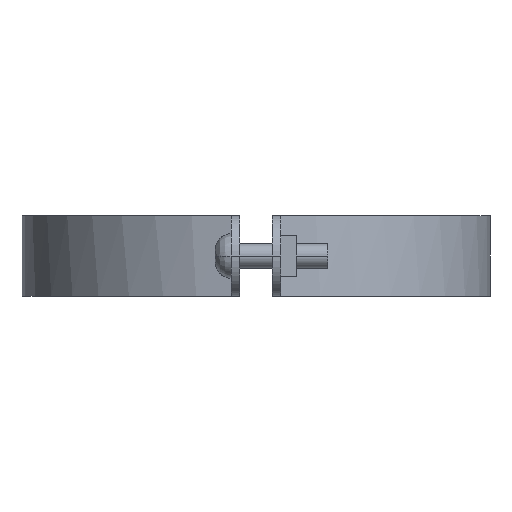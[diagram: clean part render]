
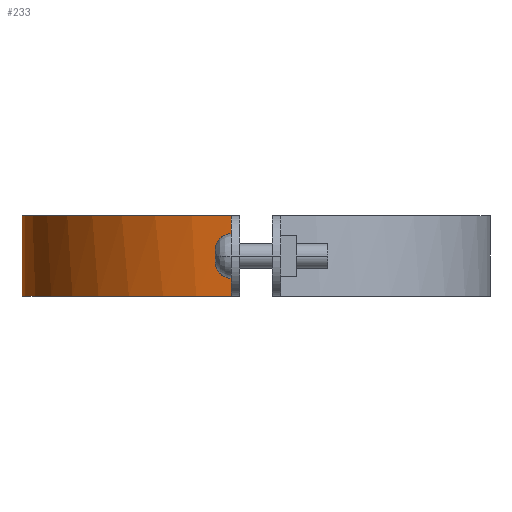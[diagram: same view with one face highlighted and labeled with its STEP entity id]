
A CAD part, left-side view. The second image highlights one B-rep face of the part: STEP entity #233.
In plain terms, the highlighted free-form (B-spline) face has degree [3, 1] with [4, 2] control points.
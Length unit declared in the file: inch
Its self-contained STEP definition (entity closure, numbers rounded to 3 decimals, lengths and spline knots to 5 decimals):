
#233=ADVANCED_FACE('',(#475),#476,.T.);
#475=FACE_OUTER_BOUND('',#995,.T.);
#476=B_SPLINE_SURFACE_WITH_KNOTS('',3,1,((#996,#997),(#998,#999),(#1000,#1001),(#1002,#1003)),.UNSPECIFIED.,.F.,.F.,.F.,(4,4),(2,2),(0.0,1.0),(0.0,1.25),.UNSPECIFIED.);
#995=EDGE_LOOP('',(#1657,#1658,#1659,#1660));
#996=CARTESIAN_POINT('',(4.497,6.94016,0.0));
#997=CARTESIAN_POINT('',(4.497,6.94016,1.25));
#998=CARTESIAN_POINT('',(2.63959,6.94016,0.0));
#999=CARTESIAN_POINT('',(2.63959,6.94016,1.25));
#1000=CARTESIAN_POINT('',(1.08133,5.53905,0.0));
#1001=CARTESIAN_POINT('',(1.08133,5.53905,1.25));
#1002=CARTESIAN_POINT('',(0.8846,3.69208,0.0));
#1003=CARTESIAN_POINT('',(0.8846,3.69208,1.25));
#1657=ORIENTED_EDGE('',*,*,#2146,.T.);
#1658=ORIENTED_EDGE('',*,*,#2125,.T.);
#1659=ORIENTED_EDGE('',*,*,#2147,.T.);
#1660=ORIENTED_EDGE('',*,*,#2036,.F.);
#2036=EDGE_CURVE('',#2334,#2336,#2337,.T.);
#2125=EDGE_CURVE('',#2475,#2479,#2481,.T.);
#2146=EDGE_CURVE('',#2334,#2475,#2509,.T.);
#2147=EDGE_CURVE('',#2479,#2336,#2510,.T.);
#2334=VERTEX_POINT('',#2846);
#2336=VERTEX_POINT('',#2849);
#2337=LINE('',#2850,#2851);
#2475=VERTEX_POINT('',#3080);
#2479=VERTEX_POINT('',#3088);
#2481=LINE('',#3091,#3092);
#2509=B_SPLINE_CURVE_WITH_KNOTS('',3,(#3137,#3138,#3139,#3140),.UNSPECIFIED.,.F.,.F.,(4,4),(0.0,1.0),.UNSPECIFIED.);
#2510=B_SPLINE_CURVE_WITH_KNOTS('',3,(#3141,#3142,#3143,#3144),.UNSPECIFIED.,.F.,.F.,(4,4),(-1.0,-0.0),.UNSPECIFIED.);
#2846=CARTESIAN_POINT('',(4.497,6.94016,0.00011));
#2849=CARTESIAN_POINT('',(4.497,6.94016,1.24992));
#2850=CARTESIAN_POINT('',(4.497,6.94016,0.0));
#2851=VECTOR('',#3397,1.0);
#3080=CARTESIAN_POINT('',(0.8846,3.69208,0.00011));
#3088=CARTESIAN_POINT('',(0.8846,3.69208,1.24992));
#3091=CARTESIAN_POINT('',(0.8846,3.69208,0.0));
#3092=VECTOR('',#3461,1.0);
#3137=CARTESIAN_POINT('',(4.497,6.94016,0.00011));
#3138=CARTESIAN_POINT('',(2.63959,6.94016,0.00011));
#3139=CARTESIAN_POINT('',(1.08133,5.53905,0.00011));
#3140=CARTESIAN_POINT('',(0.8846,3.69208,0.00011));
#3141=CARTESIAN_POINT('',(0.8846,3.69208,1.24992));
#3142=CARTESIAN_POINT('',(1.08133,5.53905,1.24992));
#3143=CARTESIAN_POINT('',(2.63959,6.94016,1.24992));
#3144=CARTESIAN_POINT('',(4.497,6.94016,1.24992));
#3397=DIRECTION('',(0.0,0.0,1.0));
#3461=DIRECTION('',(0.0,0.0,1.0));
